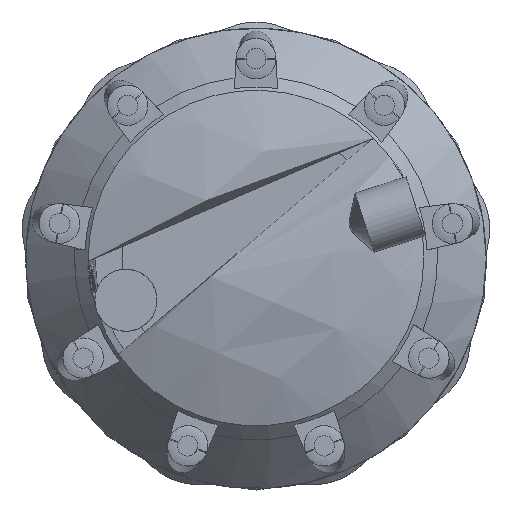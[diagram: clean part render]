
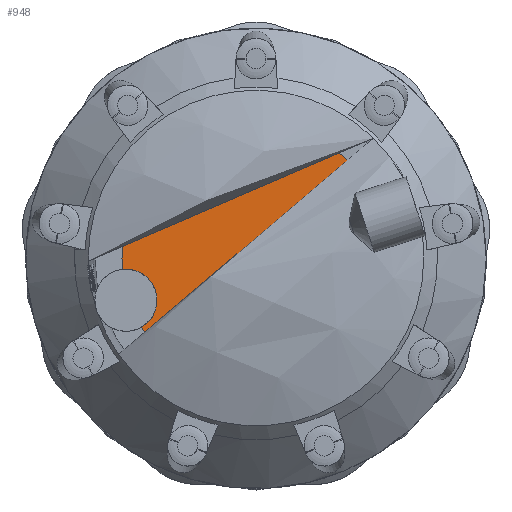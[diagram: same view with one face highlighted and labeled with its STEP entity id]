
A CAD part, top view. The second image highlights one B-rep face of the part: STEP entity #948.
In plain terms, the highlighted planar face has unit normal (0, 0, -1).
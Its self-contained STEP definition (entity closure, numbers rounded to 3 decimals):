
#948 = ADVANCED_FACE ( 'NONE', ( #2540 ), #3597, .T. ) ;
#1803 = CARTESIAN_POINT ( 'NONE',  ( 0., 0., -46.401 ) ) ;
#1804 = DIRECTION ( 'NONE',  ( 0., 0., -1. ) ) ;
#1805 = DIRECTION ( 'NONE',  ( -1., 0., 0. ) ) ;
#2540 = FACE_OUTER_BOUND ( 'NONE', #4941, .T. ) ;
#3430 = AXIS2_PLACEMENT_3D ( 'NONE', #1803, #1804, #1805 ) ;
#3541 = DIRECTION ( 'NONE',  ( -1., 0., 0. ) ) ;
#3570 = DIRECTION ( 'NONE',  ( 0., 0., -1. ) ) ;
#3597 = PLANE ( 'NONE',  #4474 ) ;
#3604 = CARTESIAN_POINT ( 'NONE',  ( 0., 0., -46.401 ) ) ;
#4189 = EDGE_CURVE ( 'NONE', #14916, #14916, #6504, .T. ) ;
#4474 = AXIS2_PLACEMENT_3D ( 'NONE', #3604, #3570, #3541 ) ;
#4564 = ORIENTED_EDGE ( 'NONE', *, *, #4189, .T. ) ;
#4941 = EDGE_LOOP ( 'NONE', ( #4564 ) ) ;
#6504 = CIRCLE ( 'NONE', #3430, 175. ) ;
#14869 = CARTESIAN_POINT ( 'NONE',  ( -175., 0., -46.401 ) ) ;
#14916 = VERTEX_POINT ( 'NONE', #14869 ) ;
